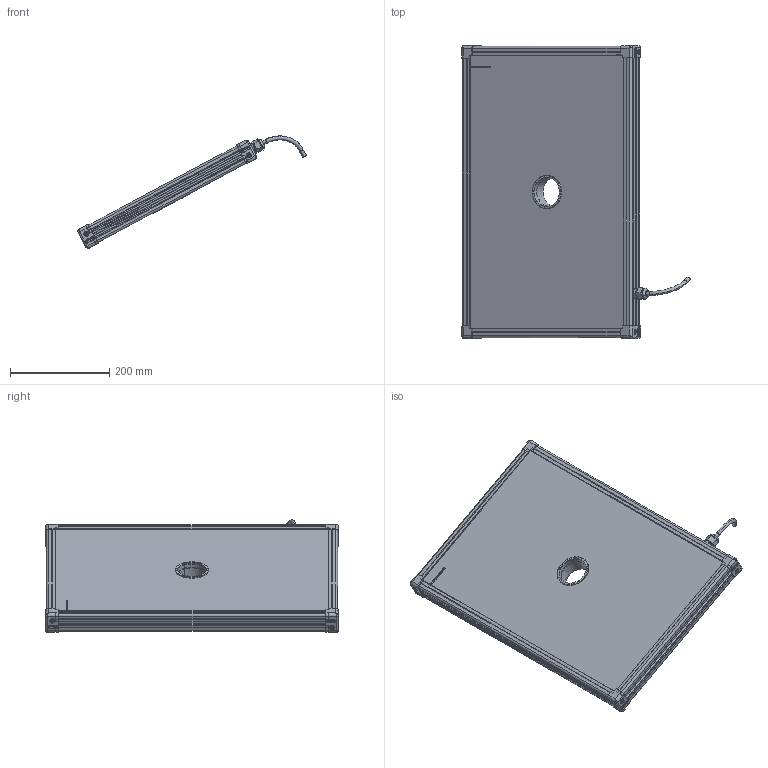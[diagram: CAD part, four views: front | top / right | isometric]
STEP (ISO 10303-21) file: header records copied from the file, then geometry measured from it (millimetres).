
FILE_DESCRIPTION (( 'STEP AP214' ), '1' );
FILE_NAME ('EFFI-BL-350-550-ZZZ-1M12P.STEP', '2021-06-21T08:48:58', ( '' ), ( '' ), 'SwSTEP 2.0', 'SolidWorks 2021', '' );
FILE_SCHEMA (( 'AUTOMOTIVE_DESIGN' ));
Length unit declared in the file: millimetre
Products named in the file (13): petite joue; 001037; 001038; petite joue + vis; 000629; EFFI-BL-350-550-ZZZ-1M12P; Pièce13^EFFI-BL-XXX-YYY-ZZZ (1 connecteur) M12POWER Ø58.5; Assemblage Ø58.5; profile Y_PERCE; profile X_PERCE; 000590; M12 power_AVEC CABLE D8.1
Assembly tree (19 placements, depth 3):
  EFFI-BL-350-550-ZZZ-1M12P
    profile X_PERCE  x2
    profile Y_PERCE
    profile Y_PERCE
    Pièce13^EFFI-BL-XXX-YYY-ZZZ (1 connecteur) M12POWER Ø58.5
    petite joue + vis  x4
      petite joue
      000629
    M12 power_AVEC CABLE D8.1
    Assemblage Ø58.5
      001037
      001038
      000590  x3
Bounding box: 459 x 589 x 226.16 mm (x, y, z)
Volume: 7844918.4 mm3; surface area: 778004.6 mm2
Topology: 22 solids, 25 shells, 3946 faces, 10510 edges, 6901 vertices
Faces by surface type: plane 2446, cylinder 718, bspline 591, cone 154, torus 29, sphere 8
Entity records: 55870 total; most frequent: CARTESIAN_POINT 22540, ORIENTED_EDGE 6994, DIRECTION 5720, EDGE_CURVE 3499, VECTOR 2454, LINE 2454, VERTEX_POINT 2302, AXIS2_PLACEMENT_3D 1633
